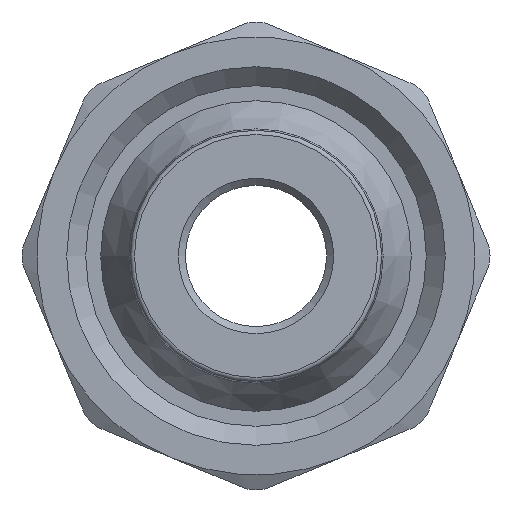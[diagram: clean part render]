
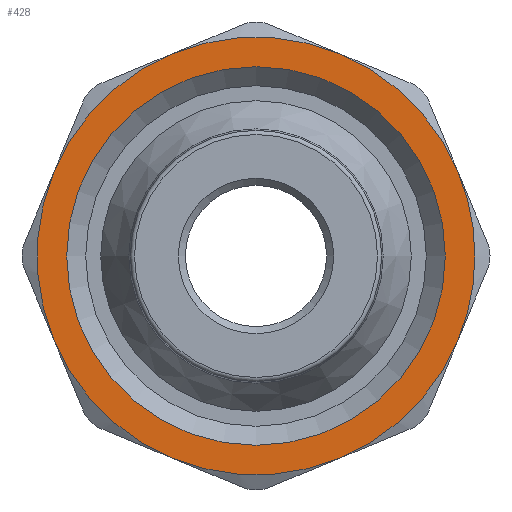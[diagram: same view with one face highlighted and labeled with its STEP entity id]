
A CAD part, front view. The second image highlights one B-rep face of the part: STEP entity #428.
In plain terms, the highlighted planar face has unit normal (0, -1, 0).
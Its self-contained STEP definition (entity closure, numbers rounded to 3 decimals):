
#428=ADVANCED_FACE('',(#1222,#1224),#1226,.F.);
#1222=FACE_BOUND('',#1223,.T.);
#1223=EDGE_LOOP('',(#1524));
#1224=FACE_BOUND('',#1225,.T.);
#1225=EDGE_LOOP('',(#1525));
#1226=PLANE('',#1227);
#1227=AXIS2_PLACEMENT_3D('',#1228,#1229,#1230);
#1228=CARTESIAN_POINT('',(0.,0.,0.));
#1229=DIRECTION('',(0.,1.,0.));
#1230=DIRECTION('',(-1.,0.,0.));
#1524=ORIENTED_EDGE('',*,*,#1663,.T.);
#1525=ORIENTED_EDGE('',*,*,#1666,.T.);
#1663=EDGE_CURVE('',#1903,#1903,#1904,.F.);
#1666=EDGE_CURVE('',#1909,#1909,#1910,.F.);
#1903=VERTEX_POINT('',#3766);
#1904=CIRCLE('',#3767,15.5);
#1909=VERTEX_POINT('',#3781);
#1910=CIRCLE('',#3782,13.409);
#3766=CARTESIAN_POINT('',(15.5,0.,0.));
#3767=AXIS2_PLACEMENT_3D('',#3768,#3769,#3770);
#3768=CARTESIAN_POINT('',(0.,0.,0.));
#3769=DIRECTION('',(0.,1.,0.));
#3770=DIRECTION('',(1.,0.,0.));
#3781=CARTESIAN_POINT('',(13.409,0.,0.));
#3782=AXIS2_PLACEMENT_3D('',#3783,#3784,#3785);
#3783=CARTESIAN_POINT('',(0.,0.,0.));
#3784=DIRECTION('',(0.,-1.,0.));
#3785=DIRECTION('',(1.,0.,0.));
